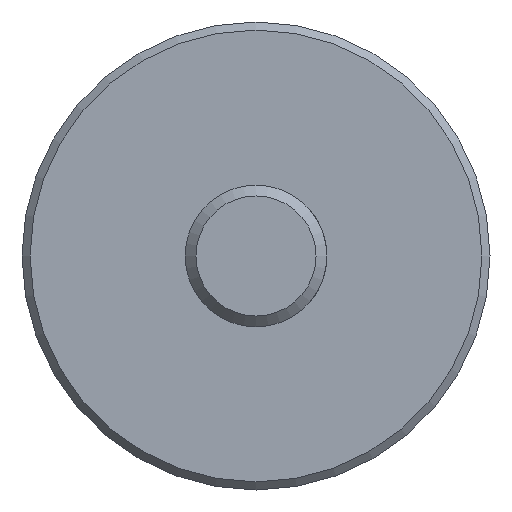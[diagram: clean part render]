
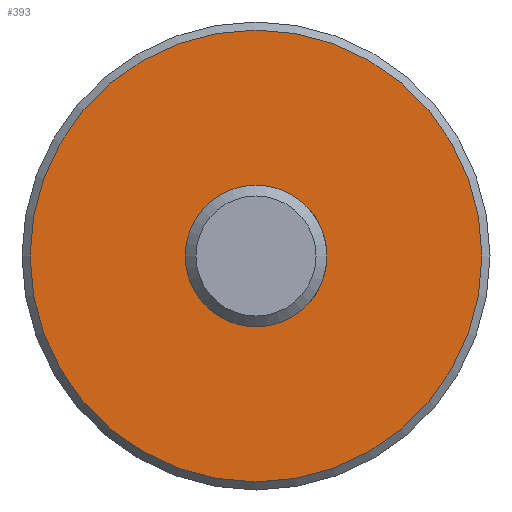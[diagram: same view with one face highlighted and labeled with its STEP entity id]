
A CAD part, front view. The second image highlights one B-rep face of the part: STEP entity #393.
In plain terms, the highlighted planar face has unit normal (0, -1, 0).
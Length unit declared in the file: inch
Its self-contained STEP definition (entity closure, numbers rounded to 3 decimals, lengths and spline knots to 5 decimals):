
#6 = DIRECTION ( 'NONE',  ( 0., 1., 0. ) ) ;
#21 = EDGE_CURVE ( 'NONE', #179, #179, #117, .T. ) ;
#92 = FACE_BOUND ( 'NONE', #371, .T. ) ;
#117 = CIRCLE ( 'NONE', #365, 1.255 ) ;
#122 = DIRECTION ( 'NONE',  ( 0., 0., 1. ) ) ;
#132 = AXIS2_PLACEMENT_3D ( 'NONE', #541, #458, #140 ) ;
#140 = DIRECTION ( 'NONE',  ( 0., 0., 1. ) ) ;
#152 = ORIENTED_EDGE ( 'NONE', *, *, #21, .F. ) ;
#164 = DIRECTION ( 'NONE',  ( 0., 1., 0. ) ) ;
#168 = CIRCLE ( 'NONE', #287, 0.3937 ) ;
#179 = VERTEX_POINT ( 'NONE', #312 ) ;
#287 = AXIS2_PLACEMENT_3D ( 'NONE', #309, #6, #449 ) ;
#291 = VERTEX_POINT ( 'NONE', #382 ) ;
#306 = EDGE_LOOP ( 'NONE', ( #152 ) ) ;
#309 = CARTESIAN_POINT ( 'NONE',  ( 0., 3.28, 0. ) ) ;
#312 = CARTESIAN_POINT ( 'NONE',  ( 0., 3.28, 1.255 ) ) ;
#365 = AXIS2_PLACEMENT_3D ( 'NONE', #521, #164, #122 ) ;
#371 = EDGE_LOOP ( 'NONE', ( #565 ) ) ;
#382 = CARTESIAN_POINT ( 'NONE',  ( 0., 3.28, 0.3937 ) ) ;
#393 = ADVANCED_FACE ( 'NONE', ( #399, #92 ), #503, .F. ) ;
#399 = FACE_OUTER_BOUND ( 'NONE', #306, .T. ) ;
#449 = DIRECTION ( 'NONE',  ( 0., 0., 1. ) ) ;
#458 = DIRECTION ( 'NONE',  ( 0., 1., 0. ) ) ;
#503 = PLANE ( 'NONE',  #132 ) ;
#517 = EDGE_CURVE ( 'NONE', #291, #291, #168, .T. ) ;
#521 = CARTESIAN_POINT ( 'NONE',  ( 0., 3.28, 0. ) ) ;
#541 = CARTESIAN_POINT ( 'NONE',  ( 0.3937, 3.28, 0. ) ) ;
#565 = ORIENTED_EDGE ( 'NONE', *, *, #517, .T. ) ;
